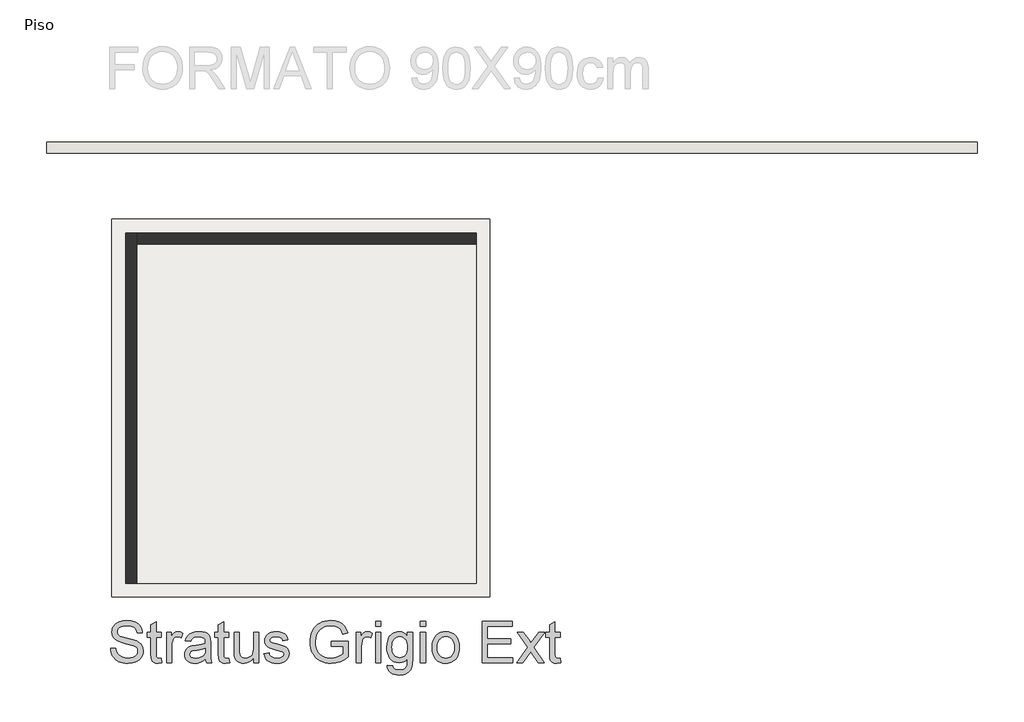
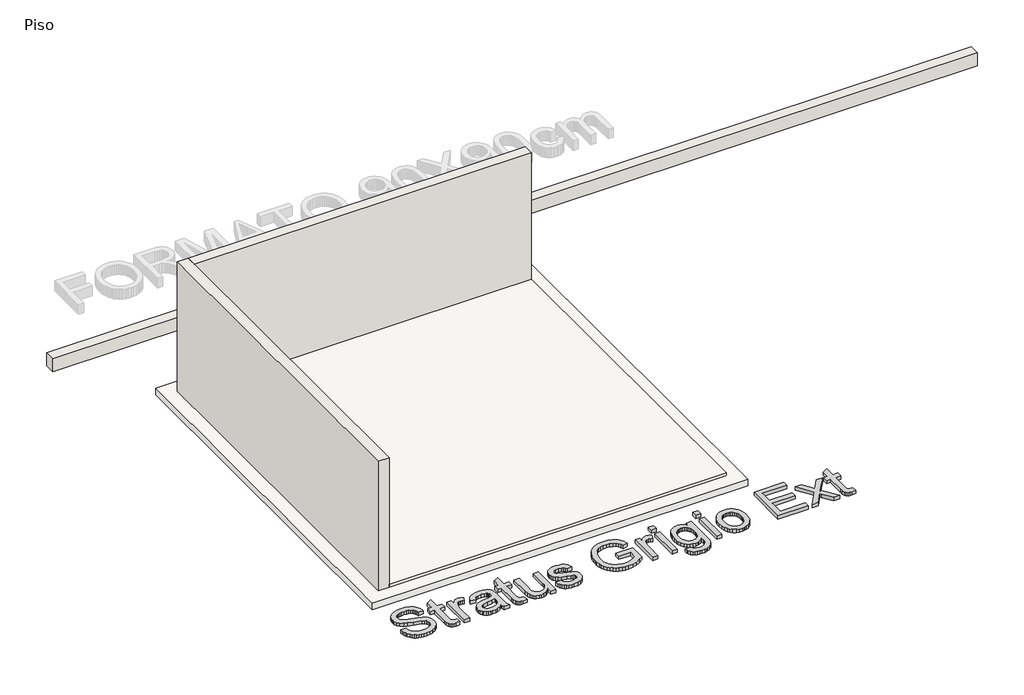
# One storey, part 1 of 2: 3 walls, 2 slabs, 1 proxy.
"""IFC4 building model written with IfcOpenShell, lengths in millimetres."""

import ifcopenshell
import ifcopenshell.guid

model = None  # the IFC model being written
_history = None  # IfcOwnerHistory: only IFC2X3 demands one
_inside = {}  # id of a spatial element -> (the spatial element, [elements in it])
_under = {}  # id of a project, library or spatial element -> (it, [spatial elements below it])
_declared = {}  # id of a project -> (the project, [libraries it declares])
_typed = {}  # id of a type object -> (the type object, [elements of that type])
_made_of = {}  # id of a material, layer set ... -> (it, [elements and type objects made of it])


def new_model(schema):
    """Start an empty IFC model of exactly this schema.

    Asked for "IFC4X3", IfcOpenShell would pick the latest addendum, in which some entities
    have other attributes; the version numbers below select the first issue.
    IFC2X3 requires an IfcOwnerHistory on every rooted entity: one is made here for all.
    """
    global model, _history
    if schema == "IFC4X3":
        model = ifcopenshell.file(schema_version=(4, 3, 0, 0))
    else:
        model = ifcopenshell.file(schema=schema)
    _inside.clear()
    _under.clear()
    _declared.clear()
    _typed.clear()
    _made_of.clear()
    _history = None
    if model.schema == "IFC2X3":
        org = make("IfcOrganization", Name="unknown")
        user = make(
            "IfcPersonAndOrganization",
            ThePerson=make("IfcPerson", FamilyName="unknown"),
            TheOrganization=org,
        )
        app = make(
            "IfcApplication",
            ApplicationDeveloper=org,
            Version="unknown",
            ApplicationFullName="unknown",
            ApplicationIdentifier="unknown",
        )
        _history = make(
            "IfcOwnerHistory",
            OwningUser=user,
            OwningApplication=app,
            ChangeAction="ADDED",
            CreationDate=0,
        )
    return model


def make(cls, **values):
    """One entity of the class cls with the attributes given. An attribute that is None is left unset."""
    return model.create_entity(
        cls, **{name: value for name, value in values.items() if value is not None}
    )


def rooted(cls, **values):
    """An entity with a GlobalId (a new one), such as an element, a storey or a relation."""
    return make(cls, GlobalId=ifcopenshell.guid.new(), OwnerHistory=_history, **values)


def si_unit(unit_type, name, prefix=None):
    """IfcSIUnit, for example si_unit("LENGTHUNIT", "METRE", prefix="MILLI")."""
    return make("IfcSIUnit", UnitType=unit_type, Prefix=prefix, Name=name)


def assignment(units):
    """IfcUnitAssignment: the units of a project."""
    return None if units is None else make("IfcUnitAssignment", Units=units)


def point(xyz):
    """IfcCartesianPoint."""
    return None if xyz is None else make("IfcCartesianPoint", Coordinates=xyz)


def direction(xyz):
    """IfcDirection."""
    return None if xyz is None else make("IfcDirection", DirectionRatios=xyz)


def frame(location, z_axis=None, x_axis=None):
    """IfcAxis2Placement3D, a coordinate frame: its origin and axes. An axis left out is left unset."""
    return make(
        "IfcAxis2Placement3D",
        Location=point(location),
        Axis=direction(z_axis),
        RefDirection=direction(x_axis),
    )


def origin():
    """The frame at (0, 0, 0) with its axes left unset."""
    return frame((0.0, 0.0, 0.0))


def origin_with_axes():
    """The frame at (0, 0, 0) with the z axis (0, 0, 1) and the x axis (1, 0, 0) written out."""
    return frame((0.0, 0.0, 0.0), z_axis=(0.0, 0.0, 1.0), x_axis=(1.0, 0.0, 0.0))


def place(relative_to, where):
    """IfcLocalPlacement: puts the frame where relative to a parent placement (None: the world)."""
    return make(
        "IfcLocalPlacement", PlacementRelTo=relative_to, RelativePlacement=where
    )


def context(
    kind, dimensions, precision=None, world=None, true_north=None, identifier=None
):
    """IfcGeometricRepresentationContext, for example the 3D "Model" context."""
    return make(
        "IfcGeometricRepresentationContext",
        ContextIdentifier=identifier,
        ContextType=kind,
        CoordinateSpaceDimension=dimensions,
        Precision=precision,
        WorldCoordinateSystem=world,
        TrueNorth=true_north,
    )


def project(units=None, contexts=None):
    """IfcProject with its units and contexts."""
    return rooted(
        "IfcProject",
        Name="project",
        RepresentationContexts=contexts,
        UnitsInContext=assignment(units),
    )


def spatial(cls, under=None, at=None, **own):
    """A site, building, storey or space (cls), placed at a placement, below another one or the project."""
    s = rooted(cls, ObjectPlacement=at, **own)
    if under is not None:
        _under.setdefault(under.id(), (under, []))[1].append(s)
    return s


def polyline(points):
    """IfcPolyline through the points."""
    return make("IfcPolyline", Points=[point(p) for p in points])


def outline(outer, holes=None, kind="AREA"):
    """IfcArbitraryClosedProfileDef: a profile drawn as a closed curve; with holes, ...WithVoids."""
    if holes is None:
        return make("IfcArbitraryClosedProfileDef", ProfileType=kind, OuterCurve=outer)
    return make(
        "IfcArbitraryProfileDefWithVoids",
        ProfileType=kind,
        OuterCurve=outer,
        InnerCurves=holes,
    )


def extrude(swept, where, along, depth):
    """IfcExtrudedAreaSolid: the profile swept, set in the frame where, extruded along a direction by depth."""
    return make(
        "IfcExtrudedAreaSolid",
        SweptArea=swept,
        Position=where,
        ExtrudedDirection=direction(along),
        Depth=depth,
    )


def faces_of(points, faces, orient=None, outer=None):
    """IfcFace entities. A face is a list of loops; a loop is a list of indices into points, from 0.

    orient and outer hold one flag for each loop. By default every Orientation is true, the
    first loop of a face is its IfcFaceOuterBound and the others are IfcFaceBound.
    """
    made = []
    for i, loops in enumerate(faces):
        bounds = []
        for j, loop in enumerate(loops):
            is_outer = j == 0 if outer is None else outer[i][j]
            bounds.append(
                make(
                    "IfcFaceOuterBound" if is_outer else "IfcFaceBound",
                    Bound=make("IfcPolyLoop", Polygon=[points[k] for k in loop]),
                    Orientation=True if orient is None else orient[i][j],
                )
            )
        made.append(make("IfcFace", Bounds=bounds))
    return made


def faceted_brep(points, faces, orient=None, outer=None, voids=None):
    """IfcFacetedBrep: a solid bounded by flat faces; with voids (closed shells), ...WithVoids."""
    shared = [point(p) for p in points]
    hull = make("IfcClosedShell", CfsFaces=faces_of(shared, faces, orient, outer))
    if voids is None:
        return make("IfcFacetedBrep", Outer=hull)
    return make(
        "IfcFacetedBrepWithVoids",
        Outer=hull,
        Voids=[
            make(cls, CfsFaces=faces_of(shared, fs, o, b)) for cls, fs, o, b in voids
        ],
    )


def shape(context_of_items, identifier, shape_type, items):
    """IfcShapeRepresentation: the items that make up one representation, for example the "Body"."""
    return make(
        "IfcShapeRepresentation",
        ContextOfItems=context_of_items,
        RepresentationIdentifier=identifier,
        RepresentationType=shape_type,
        Items=items,
    )


def made_of(thing, what):
    """Note that an element or type object is made of a material, layer set ...; save() writes the relation."""
    if what is not None:
        _made_of.setdefault(what.id(), (what, []))[1].append(thing)
    return thing


def element(
    cls,
    number,
    at=None,
    inside=None,
    cuts=None,
    type_object=None,
    material=None,
    context=None,
    identifier="Body",
    shape_type=None,
    held_by="IfcProductDefinitionShape",
    body=None,
    shapes=None,
    **own,
):
    """One element of the class cls, such as IfcWall. Its Tag is "e" and its number.

    at: its placement. inside: the storey or other place that contains it. cuts: it is an
    opening in that element (IfcRelVoidsElement). A single representation is given by context,
    identifier, shape_type and body (its items); several are given by shapes. held_by: the class
    of the entity that holds the representations. save() writes the other relations.
    """
    e = rooted(cls, Tag="e%d" % number, ObjectPlacement=at, **own)
    if body is not None:
        shapes = [shape(context, identifier, shape_type, body)]
    if shapes is not None:
        e.Representation = make(held_by, Representations=shapes)
    if inside is not None:
        _inside.setdefault(inside.id(), (inside, []))[1].append(e)
    if cuts is not None:
        rooted(
            "IfcRelVoidsElement", RelatingBuildingElement=cuts, RelatedOpeningElement=e
        )
    if type_object is not None:
        _typed.setdefault(type_object.id(), (type_object, []))[1].append(e)
    return made_of(e, material)


def aggregate(whole, parts):
    """IfcRelAggregates: a whole, such as a stair, and the parts it consists of."""
    return rooted("IfcRelAggregates", RelatingObject=whole, RelatedObjects=parts)


def save(model, path):
    """Write the relations noted so far, then the file.

    IfcRelAggregates (storeys below a building ...), IfcRelContainedInSpatialStructure (elements
    in a storey), IfcRelDefinesByType, IfcRelAssociatesMaterial and IfcRelDeclares: one each for
    every whole, place, type object, material and project.
    """
    for whole, parts in _under.values():
        aggregate(whole, parts)
    for where, things in _inside.values():
        rooted(
            "IfcRelContainedInSpatialStructure",
            RelatedElements=things,
            RelatingStructure=where,
        )
    for kind, things in _typed.values():
        rooted("IfcRelDefinesByType", RelatedObjects=things, RelatingType=kind)
    for what, things in _made_of.values():
        rooted("IfcRelAssociatesMaterial", RelatedObjects=things, RelatingMaterial=what)
    for by, libraries in _declared.values():
        rooted("IfcRelDeclares", RelatingContext=by, RelatedDefinitions=libraries)
    model.write(path)


model = new_model("IFC4")

# Units and contexts
model_context = context("Model", 3, world=origin())
ifc_project = project(units=[si_unit("LENGTHUNIT", "METRE", prefix="MILLI")], contexts=[model_context])

# Site, building, storey
site = spatial("IfcSite", under=ifc_project)
building = spatial("IfcBuilding", under=site)
storey = spatial("IfcBuildingStorey", under=building, Name="Piso", Elevation=0.0)

# Proxy
placement = place(None, origin())
element("IfcBuildingElementProxy", 1, Name="600mm Arial", ObjectType="600mm Arial", at=placement, inside=storey, context=model_context, shape_type="SweptSolid", body=[
    extrude(outline(polyline([(92616.7349358, -5420.6662735), (92692.0771684, -5420.6662735), (92700.7223953, -5462.4760622), (92716.35738, -5496.0820825), (92740.7479563, -5522.7535271), (92775.6599577, -5543.7595891), (92818.3342691, -5557.389617), (92866.0117757, -5561.9329596), (92907.9871113, -5558.493263), (92944.7385227, -5548.174173), (92974.5185702, -5531.8402124), (92995.5798144, -5510.3559039), (93008.1061963, -5485.6894161), (93012.281657, -5459.8089178), (93009.15466, -5434.590607), (92999.7736691, -5412.7935988), (92980.7173818, -5394.1971639), (92948.5644954, -5378.5805732), (92838.8620844, -5349.8122012), (92766.8491839, -5330.7743079), (92720.771964, -5312.6561197), (92683.2663946, -5287.3090502), (92656.6869204, -5256.5909036), (92640.8496005, -5221.1638675), (92635.5704939, -5181.6901294), (92637.2029703, -5159.2539262), (92642.1003993, -5137.5626841), (92650.2627811, -5116.616403), (92661.6901156, -5096.4150829), (92676.253644, -5077.7818599), (92693.8246078, -5061.5398698), (92714.4030069, -5047.6891127), (92737.9888414, -5036.2295885), (92791.0006369, -5020.833727), (92849.6778151, -5015.7017732), (92913.2478239, -5021.0728503), (92968.8715815, -5037.1860817), (92993.2069755, -5049.1882318), (93014.5625253, -5063.7103735), (93032.938231, -5080.752507), (93048.3340925, -5100.3146321), (93060.6305482, -5121.8265317), (93069.7080364, -5144.7179889), (93075.5665572, -5168.9890035), (93078.2061105, -5194.6395756), (93002.8638779, -5194.6395756), (92997.8238946, -5170.5984872), (92989.0315149, -5149.6843958), (92976.4867388, -5131.8973014), (92960.1895665, -5117.2372038), (92939.8364951, -5105.7776797), (92915.124022, -5097.5923053), (92886.0521474, -5092.6810807), (92852.6208711, -5091.0440058), (92818.122737, -5092.6626866), (92788.6461921, -5097.5187289), (92764.1912365, -5105.6121328), (92744.7578701, -5116.9428982), (92729.9506198, -5130.5637291), (92719.3740124, -5145.5273293), (92713.028048, -5161.8336987), (92710.9127265, -5179.4828374), (92712.4118456, -5194.6671668), (92716.909203, -5208.4351504), (92724.4047987, -5220.7867884), (92734.8986326, -5231.7220807), (92751.4165342, -5242.0779589), (92777.4257912, -5252.5442017), (92857.9183718, -5273.807781), (92940.9861263, -5294.0045025), (92991.2388068, -5311.6260501), (93034.1890298, -5338.9596823), (93050.7943033, -5355.0269285), (93064.1530183, -5372.6944613), (93074.4215245, -5391.8703103), (93081.7561718, -5412.462505), (93087.6238896, -5457.8959314), (93085.9362309, -5481.4633717), (93080.873255, -5504.3410333), (93072.4349617, -5526.5289161), (93060.6213511, -5548.0270202), (93045.6393569, -5568.0030125), (93027.6959126, -5585.6245601), (93006.7910182, -5600.8916629), (92982.9246738, -5613.8043209), (92956.7912565, -5624.0728271), (92929.0851438, -5631.4074744), (92868.9548316, -5637.2751922), (92830.4145941, -5635.6932996), (92795.1393093, -5630.9476219), (92763.1289772, -5623.038159), (92734.3835978, -5611.964911), (92708.7284272, -5597.7094836), (92685.9887213, -5580.253483), (92666.1644803, -5559.5969089), (92649.2557041, -5535.7397616), (92635.6348733, -5509.454593), (92625.6744682, -5481.5139555), (92619.3744891, -5451.917849), (92616.7349358, -5420.6662735)])), origin_with_axes(), (0.0, 0.0, 1.0), 50.0),
    extrude(outline(polyline([(93351.3217037, -5565.0231684), (93360.7394828, -5630.0647051), (93304.3799611, -5637.2751922), (93268.217161, -5634.1481953), (93241.2514108, -5624.7672044), (93222.1951234, -5610.309442), (93209.760712, -5591.9521304), (93202.9181069, -5560.4246434), (93200.6372385, -5506.4563547), (93200.6372385, -5260.5640292), (93144.130564, -5260.5640292), (93144.130564, -5185.2217966), (93200.6372385, -5185.2217966), (93200.6372385, -5077.6531012), (93275.9794711, -5033.3601089), (93275.9794711, -5185.2217966), (93351.3217037, -5185.2217966), (93351.3217037, -5260.5640292), (93275.9794711, -5260.5640292), (93275.9794711, -5504.2490628), (93279.9525967, -5543.0974015), (93292.8284665, -5556.8561881), (93303.6993794, -5560.6637667), (93318.5066298, -5561.9329596), (93351.3217037, -5565.0231684)])), origin_with_axes(), (0.0, 0.0, 1.0), 50.0),
    extrude(outline(polyline([(93426.6639363, -5627.8574132), (93426.6639363, -5185.2217966), (93492.5883899, -5185.2217966), (93492.5883899, -5250.7047917), (93516.942178, -5212.7393698), (93539.3829797, -5190.3721445), (93561.8973578, -5179.4460492), (93586.471875, -5175.8040175), (93623.9958385, -5181.616553), (93662.1084132, -5199.0541596), (93636.9452848, -5266.5972939), (93610.4577811, -5255.009011), (93583.9702775, -5251.1462501), (93561.4742935, -5254.8618582), (93541.3695424, -5266.0086827), (93525.1275523, -5283.7405949), (93514.2198512, -5307.2114662), (93505.0595895, -5349.2971664), (93502.0061689, -5395.2088394), (93502.0061689, -5627.8574132), (93426.6639363, -5627.8574132)])), origin_with_axes(), (0.0, 0.0, 1.0), 50.0),
    extrude(outline(polyline([(93991.7306809, -5571.3507387), (93955.7334277, -5602.2160381), (93918.6693167, -5622.4127596), (93879.6922193, -5633.5595841), (93837.9560069, -5637.2751922), (93804.4097675, -5635.0403091), (93774.9930035, -5628.3356597), (93749.7057148, -5617.1612441), (93728.5479016, -5601.5170623), (93711.8414605, -5582.3963956), (93699.9082883, -5560.7925254), (93692.7483849, -5536.7054518), (93690.3617505, -5510.1351747), (93693.966994, -5478.9019933), (93704.7827247, -5450.5382915), (93721.4661732, -5426.2580798), (93742.6745702, -5407.2753688), (93767.5985754, -5392.927971), (93795.4288483, -5382.5536988), (93860.6175378, -5371.2229333), (93937.6520276, -5359.3035567), (93991.2892225, -5345.3240409), (93991.7306809, -5328.5486219), (93986.5435448, -5294.9242075), (93980.0596246, -5282.471402), (93970.9821364, -5272.9248642), (93955.2919693, -5263.3967205), (93936.1804997, -5256.5909036), (93887.6936527, -5251.1462501), (93842.8120493, -5254.7698877), (93811.4685033, -5265.6408007), (93790.0945594, -5285.7455517), (93775.1217622, -5317.0707036), (93699.7795296, -5307.6529245), (93712.8577345, -5266.4501411), (93732.3738743, -5234.0765255), (93760.148965, -5209.3180672), (93798.0040223, -5190.9607557), (93844.3019714, -5179.593202), (93897.4057374, -5175.8040175), (93948.3389996, -5179.1517436), (93988.7140486, -5189.1949221), (94019.1562837, -5204.296478), (94040.2911043, -5222.8193365), (94054.3074083, -5245.7199907), (94063.3940936, -5273.9549338), (94067.0729135, -5339.8793873), (94067.0729135, -5433.6157197), (94070.8988863, -5564.5081336), (94076.564269, -5596.8633551), (94085.9084717, -5627.8574132), (94010.5662391, -5627.8574132), (93998.4997096, -5601.6642151), (93991.7306809, -5571.3507387)]), holes=[polyline([(93991.7306809, -5420.6662735), (93941.1101184, -5433.2110495), (93870.1824697, -5443.7692628), (93805.3616622, -5455.982945), (93788.4942727, -5464.3338663), (93776.004679, -5475.8485727), (93768.2791571, -5489.6441476), (93765.7039831, -5504.837674), (93771.3141835, -5527.2416875), (93788.1447848, -5545.598999), (93815.8279049, -5557.8494695), (93853.9956619, -5561.9329596), (93894.4626814, -5557.4264052), (93930.2208113, -5543.9067419), (93959.2099126, -5523.9859318), (93979.3698459, -5500.2759372), (93988.3093784, -5475.8485727), (93991.2892225, -5442.0034292), (93991.7306809, -5420.6662735)])]), origin_with_axes(), (0.0, 0.0, 1.0), 50.0),
    extrude(outline(polyline([(94330.7707277, -5565.0231684), (94340.1885068, -5630.0647051), (94283.8289851, -5637.2751922), (94247.666185, -5634.1481953), (94220.7004347, -5624.7672044), (94201.6441474, -5610.309442), (94189.2097359, -5591.9521304), (94182.3671308, -5560.4246434), (94180.0862625, -5506.4563547), (94180.0862625, -5260.5640292), (94123.579588, -5260.5640292), (94123.579588, -5185.2217966), (94180.0862625, -5185.2217966), (94180.0862625, -5077.6531012), (94255.4284951, -5033.3601089), (94255.4284951, -5185.2217966), (94330.7707277, -5185.2217966), (94330.7707277, -5260.5640292), (94255.4284951, -5260.5640292), (94255.4284951, -5504.2490628), (94259.4016206, -5543.0974015), (94272.2774904, -5556.8561881), (94283.1484034, -5560.6637667), (94297.9556537, -5561.9329596), (94330.7707277, -5565.0231684)])), origin_with_axes(), (0.0, 0.0, 1.0), 50.0),
    extrude(outline(polyline([(94688.6463326, -5627.8574132), (94688.6463326, -5551.7794165), (94661.3862767, -5589.1838184), (94629.6380606, -5615.9012483), (94593.401684, -5631.9317062), (94552.6771472, -5637.2751922), (94515.9809182, -5633.5227959), (94481.8230749, -5622.2656068), (94453.1650675, -5605.343035), (94432.9683459, -5584.5944905), (94419.3751062, -5559.3945738), (94410.5275442, -5529.1178856), (94406.1129603, -5459.0731538), (94406.1129603, -5185.2217966), (94481.4551929, -5185.2217966), (94481.4551929, -5423.6093294), (94482.5956271, -5471.286836), (94486.0169296, -5500.42309), (94496.9982072, -5526.046071), (94515.8153713, -5545.5254226), (94541.217623, -5557.8310754), (94571.9541637, -5561.9329596), (94604.456538, -5557.7391049), (94634.8619849, -5545.1575406), (94659.9331429, -5525.3470952), (94676.4326503, -5499.4665968), (94685.592912, -5464.0211666), (94688.6463326, -5415.5159255), (94688.6463326, -5185.2217966), (94763.9885652, -5185.2217966), (94763.9885652, -5627.8574132), (94688.6463326, -5627.8574132)])), origin_with_axes(), (0.0, 0.0, 1.0), 50.0),
    extrude(outline(polyline([(94839.3307978, -5496.0085061), (94914.6730304, -5486.590727), (94919.2255701, -5503.7708162), (94926.5556189, -5518.8171898), (94936.6631767, -5531.7298478), (94949.5482436, -5542.5087903), (94965.2476077, -5551.0068644), (94983.7980573, -5557.0769173), (95029.4522129, -5561.9329596), (95074.5545455, -5557.4815875), (95092.0841226, -5551.9173723), (95106.2659735, -5544.127471), (95125.0279553, -5524.7768781), (95129.7184507, -5513.9427533), (95131.2819492, -5502.3360764), (95129.7092537, -5492.1641392), (95124.9911671, -5483.1326362), (95106.1188207, -5468.4909328), (95077.9022717, -5458.926001), (95028.5692961, -5447.0066243), (94959.8121512, -5427.1226025), (94915.1144888, -5410.1448484), (94886.4012991, -5391.6219899), (94865.5975723, -5367.102655), (94852.9608257, -5338.1503419), (94848.7485769, -5306.3285494), (94852.1330912, -5277.137113), (94862.2866343, -5250.1897569), (94878.2895011, -5226.5533387), (94899.2219866, -5207.2947163), (94920.0257135, -5195.1730045), (94947.1202224, -5185.0010674), (94978.4453743, -5178.1032799), (95011.94103, -5175.8040175), (95060.9796999, -5179.5012315), (95103.6172231, -5190.5928737), (95137.9038251, -5207.9936921), (95161.8897312, -5230.6184348), (95177.7822334, -5260.1409649), (95187.7886236, -5298.2351455), (95112.446391, -5307.6529245), (95102.9366415, -5283.94293), (95084.1194774, -5266.0822591), (95055.8109579, -5254.8802523), (95017.8271419, -5251.1462501), (94974.5642192, -5254.7147054), (94945.7222708, -5265.4200715), (94929.4986748, -5280.8711153), (94924.0908095, -5298.6766039), (94926.3348897, -5310.2648867), (94933.0671302, -5320.6023708), (94944.5818366, -5329.8362089), (94961.1733146, -5337.230637), (95026.0676986, -5353.270292), (95136.6530263, -5388.7341163), (95165.8628567, -5405.6934763), (95188.0093528, -5428.9068302), (95201.9704746, -5458.4477544), (95206.6241818, -5494.3898253), (95201.1611342, -5531.5459068), (95184.7719913, -5566.4946964), (95158.0821525, -5596.4954731), (95121.7170173, -5618.8075161), (95077.7919071, -5632.6582732), (95028.4221433, -5637.2751922), (94987.8723504, -5635.0495062), (94952.4545113, -5628.3724479), (94922.1686261, -5617.2440176), (94897.0146947, -5601.6642151), (94876.4684852, -5581.7066169), (94860.0057659, -5557.4447993), (94847.6265368, -5528.8787623), (94839.3307978, -5496.0085061)])), origin_with_axes(), (0.0, 0.0, 1.0), 50.0),
    extrude(outline(polyline([(95818.7798218, -5392.4129362), (95818.7798218, -5317.0707036), (96063.6420778, -5317.0707036), (96063.6420778, -5542.3616375), (96004.137165, -5583.7483619), (95942.7560541, -5613.4364389), (95879.6458979, -5631.3155039), (95814.953849, -5637.2751922), (95771.6771308, -5634.9069519), (95730.4329606, -5627.8022309), (95691.2213385, -5615.9610291), (95654.0422643, -5599.3833467), (95620.0959532, -5578.317504), (95590.5826202, -5553.0118212), (95565.5022651, -5523.4662985), (95544.8548882, -5489.6809358), (95528.7278612, -5452.7363864), (95517.2085562, -5413.7133038), (95510.2969732, -5372.6116878), (95507.9931122, -5329.4315387), (95510.2877762, -5286.246791), (95517.171768, -5244.5427683), (95528.6450878, -5204.3194706), (95544.7077354, -5165.576898), (95565.0746023, -5130.0165047), (95589.4605801, -5099.3397448), (95617.8656686, -5073.5466184), (95650.289868, -5052.6371255), (95686.0296038, -5036.4779089), (95724.3813018, -5024.9356113), (95765.344962, -5018.0102327), (95808.9205843, -5015.7017732), (95870.9822769, -5021.0544562), (95926.7899756, -5037.1125053), (95951.7093822, -5048.866335), (95973.7869004, -5062.7170922), (95993.0225303, -5078.6647767), (96009.4162717, -5096.7093885), (96035.7750166, -5140.7264692), (96054.9600627, -5196.4054092), (95985.503942, -5215.9767314), (95969.9977159, -5176.26387), (95951.1437636, -5146.2998815), (95926.2013644, -5123.711927), (95892.4297972, -5106.1271676), (95852.1651128, -5094.8147962), (95807.7433619, -5091.0440058), (95755.7432419, -5095.1091018), (95711.2847028, -5107.30439), (95674.5332915, -5126.1031599), (95645.6545548, -5149.9787014), (95623.4896646, -5177.6986098), (95606.8797926, -5208.0304803), (95589.2214568, -5264.9050367), (95583.3353449, -5326.3413299), (95585.105777, -5363.9618624), (95590.4170733, -5398.3910187), (95599.2692338, -5429.6287986), (95611.6622585, -5457.6752022), (95627.435199, -5482.4244634), (95646.427107, -5503.7708162), (95668.6379825, -5521.7142605), (95694.0678254, -5536.2547964), (95721.5256178, -5547.4889928), (95749.8203418, -5555.5134188), (95778.9519973, -5560.3280744), (95808.9205843, -5561.9329596), (95861.1046453, -5557.0953114), (95912.0011194, -5542.5823667), (95956.2021411, -5522.5879802), (95988.2998452, -5501.3060068), (95988.2998452, -5392.4129362), (95818.7798218, -5392.4129362)])), origin_with_axes(), (0.0, 0.0, 1.0), 50.0),
    extrude(outline(polyline([(96176.6554267, -5627.8574132), (96176.6554267, -5185.2217966), (96242.5798802, -5185.2217966), (96242.5798802, -5250.7047917), (96266.9336683, -5212.7393698), (96289.37447, -5190.3721445), (96311.8888481, -5179.4460492), (96336.4633654, -5175.8040175), (96373.9873289, -5181.616553), (96412.0999036, -5199.0541596), (96386.9367751, -5266.5972939), (96360.4492715, -5255.009011), (96333.9617678, -5251.1462501), (96311.4657838, -5254.8618582), (96291.3610328, -5266.0086827), (96275.1190427, -5283.7405949), (96264.2113415, -5307.2114662), (96255.0510799, -5349.2971664), (96251.9976593, -5395.2088394), (96251.9976593, -5627.8574132), (96176.6554267, -5627.8574132)])), origin_with_axes(), (0.0, 0.0, 1.0), 50.0),
    extrude(outline(polyline([(96459.188799, -5100.4617849), (96459.188799, -5025.1195523), (96534.5310316, -5025.1195523), (96534.5310316, -5100.4617849), (96459.188799, -5100.4617849)])), origin_with_axes(), (0.0, 0.0, 1.0), 50.0),
    extrude(outline(polyline([(96459.188799, -5627.8574132), (96459.188799, -5185.2217966), (96534.5310316, -5185.2217966), (96534.5310316, -5627.8574132), (96459.188799, -5627.8574132)])), origin_with_axes(), (0.0, 0.0, 1.0), 50.0),
    extrude(outline(polyline([(96628.7088224, -5665.5285295), (96704.051055, -5674.9463085), (96712.3651881, -5698.4907562), (96728.4784194, -5714.677564), (96760.1530592, -5727.2591282), (96801.6133601, -5731.452983), (96845.8327759, -5726.7073053), (96863.6934468, -5720.7752081), (96878.7214263, -5712.470272), (96901.53011, -5689.6615883), (96915.5096258, -5659.2009591), (96919.5931159, -5626.7905554), (96920.6599737, -5571.3507387), (96895.5888158, -5596.0724088), (96867.61139, -5613.7307445), (96836.7276965, -5624.325746), (96802.9377353, -5627.8574132), (96761.6291857, -5623.7463319), (96725.259452, -5611.413088), (96693.828534, -5590.8576815), (96667.3364318, -5562.0801124), (96646.3165743, -5527.5543872), (96631.3023904, -5489.7545122), (96622.2938801, -5448.6804874), (96619.2910433, -5404.3323129), (96624.6805145, -5343.503025), (96640.8489282, -5287.5665676), (96652.8326842, -5262.3436583), (96667.2260672, -5240.1649725), (96684.0290774, -5221.0305103), (96703.2417146, -5204.9402715), (96724.5558777, -5192.1931604), (96747.6634655, -5183.088081), (96772.564478, -5177.6250334), (96799.2589153, -5175.8040175), (96834.4928134, -5179.9242958), (96866.4709558, -5192.2851309), (96895.1933426, -5212.8865226), (96920.6599737, -5241.728471), (96920.6599737, -5185.2217966), (96996.0022063, -5185.2217966), (96996.0022063, -5567.3776131), (96990.8518584, -5655.6141097), (96984.4139235, -5688.4337822), (96975.4008146, -5713.7210708), (96963.5964011, -5734.1155289), (96948.7845523, -5752.2567098), (96930.9652681, -5768.1446135), (96910.1385487, -5781.7792399), (96886.515926, -5792.7237293), (96860.3089324, -5800.5412217), (96831.5175678, -5805.2317171), (96800.1418321, -5806.7952156), (96763.2294724, -5804.5925222), (96730.0419179, -5797.9844418), (96700.5791686, -5786.9709746), (96674.8412245, -5771.5521205), (96654.0512933, -5751.7094854), (96639.4325825, -5727.4246751), (96630.9850922, -5698.6976898), (96628.7088224, -5665.5285295)]), holes=[polyline([(96694.6332759, -5399.1819649), (96696.6428313, -5436.4346155), (96702.6714975, -5468.2885977), (96712.7192745, -5494.7439117), (96726.7861623, -5515.8005574), (96743.8880765, -5531.863205), (96763.0409329, -5543.3365248), (96784.2447314, -5550.2205166), (96807.499472, -5552.5151805), (96830.5242864, -5550.2343122), (96851.6269173, -5543.3917071), (96870.8073649, -5531.9873652), (96888.065629, -5516.0212866), (96902.3256548, -5495.1715745), (96912.5113875, -5469.1163322), (96918.6228272, -5437.8555597), (96920.6599737, -5401.3892569), (96918.5630464, -5366.4450659), (96912.2722642, -5336.0718087), (96901.7876274, -5310.2694852), (96887.1091358, -5289.0380956), (96869.4783911, -5272.4604132), (96850.1369953, -5260.6192115), (96829.0849481, -5253.5144904), (96806.3222496, -5251.1462501), (96783.9412287, -5253.4777022), (96763.2984503, -5260.4720587), (96744.3939143, -5272.1293194), (96727.2276207, -5288.4494844), (96712.9675948, -5309.3589773), (96702.7818621, -5334.7842217), (96696.6704224, -5364.7252176), (96694.6332759, -5399.1819649)])]), origin_with_axes(), (0.0, 0.0, 1.0), 50.0),
    extrude(outline(polyline([(97109.0155553, -5100.4617849), (97109.0155553, -5025.1195523), (97184.3577879, -5025.1195523), (97184.3577879, -5100.4617849), (97109.0155553, -5100.4617849)])), origin_with_axes(), (0.0, 0.0, 1.0), 50.0),
    extrude(outline(polyline([(97109.0155553, -5627.8574132), (97109.0155553, -5185.2217966), (97184.3577879, -5185.2217966), (97184.3577879, -5627.8574132), (97109.0155553, -5627.8574132)])), origin_with_axes(), (0.0, 0.0, 1.0), 50.0),
    extrude(outline(polyline([(97278.5355786, -5406.5396049), (97282.6098717, -5349.214393), (97294.832751, -5299.8170381), (97315.2042165, -5258.3475401), (97343.7242682, -5224.8058992), (97372.4374579, -5203.367576), (97404.1304918, -5188.0544879), (97438.8033698, -5178.8666351), (97476.456092, -5175.8040175), (97518.022159, -5179.5334212), (97555.6059033, -5190.7216324), (97589.207325, -5209.368651), (97618.8264242, -5235.4744771), (97643.0008698, -5268.1561938), (97660.2683309, -5306.5308845), (97670.6288076, -5350.598549), (97674.0822998, -5400.3591873), (97672.5555896, -5440.6882511), (97667.9754587, -5476.4739721), (97660.3419073, -5507.7163506), (97649.6549354, -5534.4153864), (97636.0479001, -5557.4769889), (97619.6541587, -5577.8070677), (97600.4737111, -5595.4056227), (97578.5065575, -5610.2726538), (97554.6080234, -5622.0862644), (97529.6334344, -5630.5245576), (97503.5827907, -5635.5875336), (97476.456092, -5637.2751922), (97434.2830198, -5633.5595841), (97396.3497876, -5622.4127596), (97362.6563954, -5603.8347189), (97333.2028431, -5577.8254618), (97309.2859149, -5544.8264468), (97292.2023948, -5505.2791324), (97281.9522827, -5459.1835184), (97278.5355786, -5406.5396049)]), holes=[polyline([(97353.8778112, -5406.3924521), (97356.0575121, -5442.9369298), (97362.5966145, -5474.5793799), (97373.4951186, -5501.3198024), (97388.7530244, -5523.1581973), (97407.312671, -5540.1221558), (97428.1163979, -5552.239269), (97451.1642049, -5559.509537), (97476.456092, -5561.9329596), (97501.6192205, -5559.4957414), (97524.575057, -5552.1840867), (97545.3236015, -5539.9979957), (97563.8648541, -5522.9374681), (97579.1227598, -5500.8829425), (97590.021264, -5473.7148572), (97596.5603664, -5441.4332121), (97598.7400672, -5404.0380073), (97596.5465708, -5368.6523579), (97589.9660817, -5337.8376423), (97578.9985997, -5311.5938604), (97563.6441249, -5289.9210124), (97545.0338945, -5272.9570539), (97524.2991455, -5260.8399407), (97501.439878, -5253.5696727), (97476.456092, -5251.1462501), (97451.1642049, -5253.5604757), (97428.1163979, -5260.8031525), (97407.312671, -5272.8742804), (97388.7530244, -5289.7738596), (97373.4951186, -5311.5478752), (97362.5966145, -5338.2423124), (97356.0575121, -5369.8571714), (97353.8778112, -5406.3924521)])]), origin_with_axes(), (0.0, 0.0, 1.0), 50.0),
    extrude(outline(polyline([(98003.7045675, -5627.8574132), (98003.7045675, -5025.1195523), (98436.922405, -5025.1195523), (98436.922405, -5100.4617849), (98079.0468001, -5100.4617849), (98079.0468001, -5279.3995873), (98418.0868469, -5279.3995873), (98418.0868469, -5354.7418199), (98079.0468001, -5354.7418199), (98079.0468001, -5552.5151805), (98446.3401841, -5552.5151805), (98446.3401841, -5627.8574132), (98003.7045675, -5627.8574132)])), origin_with_axes(), (0.0, 0.0, 1.0), 50.0),
    extrude(outline(polyline([(98502.8468586, -5627.8574132), (98663.8320197, -5405.3623825), (98512.2646377, -5185.2217966), (98602.9107613, -5185.2217966), (98676.0457019, -5291.1718112), (98710.1851511, -5341.2037625), (98739.7628635, -5300.2952846), (98823.0513472, -5185.2217966), (98913.6974708, -5185.2217966), (98754.4781433, -5405.3623825), (98907.8113589, -5627.8574132), (98817.1652353, -5627.8574132), (98724.9004309, -5494.0955197), (98707.9778591, -5469.6681552), (98593.4929822, -5627.8574132), (98502.8468586, -5627.8574132)])), origin_with_axes(), (0.0, 0.0, 1.0), 50.0),
    extrude(outline(polyline([(99133.8380567, -5565.0231684), (99143.2558358, -5630.0647051), (99086.8963141, -5637.2751922), (99050.733514, -5634.1481953), (99023.7677638, -5624.7672044), (99004.7114764, -5610.309442), (98992.277065, -5591.9521304), (98985.4344599, -5560.4246434), (98983.1535915, -5506.4563547), (98983.1535915, -5260.5640292), (98926.646917, -5260.5640292), (98926.646917, -5185.2217966), (98983.1535915, -5185.2217966), (98983.1535915, -5077.6531012), (99058.4958241, -5033.3601089), (99058.4958241, -5185.2217966), (99133.8380567, -5185.2217966), (99133.8380567, -5260.5640292), (99058.4958241, -5260.5640292), (99058.4958241, -5504.2490628), (99062.4689496, -5543.0974015), (99075.3448195, -5556.8561881), (99086.2157324, -5560.6637667), (99101.0229827, -5561.9329596), (99133.8380567, -5565.0231684)])), origin_with_axes(), (0.0, 0.0, 1.0), 50.0),
])

# Slabs
element("IfcSlab", 2, ObjectType="5cm - Porcelanato Stratus Grigio Ext  - Externo 90X90", at=placement, inside=storey, context=model_context, shape_type="SweptSolid", body=[
    extrude(outline(polyline([(97914.6784999, 448.2762181), (97914.6784999, -4472.3237819), (92994.0784999, -4472.3237819), (92994.0784999, 448.2762181), (97914.6784999, 448.2762181)])), origin_with_axes(), (0.0, 0.0, 1.0), 50.0),
])
element("IfcSlab", 3, ObjectType="CO02 - Concreto Estrutural Simples", at=placement, inside=storey, context=model_context, shape_type="SweptSolid", body=[
    extrude(outline(polyline([(98114.6784999, 807.0762181), (98114.6784999, -4672.3237819), (92635.2784999, -4672.3237819), (92635.2784999, 807.0762181), (98114.6784999, 807.0762181)])), frame((0.0, 0.0, -100.0), z_axis=(0.0, 0.0, 1.0), x_axis=(1.0, 0.0, 0.0)), (0.0, 0.0, 1.0), 100.0),
])

# Walls
element("IfcWall", 4, ObjectType="CO01 - Bloco de Concreto 14cm / Pintura Branca Simples", at=placement, inside=storey, context=model_context, shape_type="SweptSolid", body=[
    extrude(outline(polyline([(105186.699165, 1765.7486968), (91686.699165, 1765.7486968), (91686.699165, 1924.5486968), (105186.699165, 1924.5486968), (105186.699165, 1765.7486968)])), origin_with_axes(), (0.0, 0.0, 1.0), 200.0),
])
element("IfcWall", 5, ObjectType="CO01 - Bloco de Concreto 14cm / Pintura Branca Simples", at=placement, inside=storey, context=model_context, shape_type="Brep", body=[
    faceted_brep([(92994.0784999, -4472.3237819, 0.0), (92994.0784999, 448.2762181, 0.0), (92994.0784999, 607.0762181, 0.0), (92994.0784999, 607.0762181, 2000.0), (92994.0784999, 448.2762181, 2000.0), (92994.0784999, -4472.3237819, 2000.0), (92835.2784999, -4472.3237819, 0.0), (92835.2784999, -4472.3237819, 2000.0), (92835.2784999, 607.0762181, 2000.0), (92835.2784999, 607.0762181, 0.0)], [[[0, 1, 2, 3, 4, 5]], [[6, 7, 8, 9]], [[2, 1, 0, 6, 9]], [[5, 4, 3, 8, 7]], [[0, 5, 7, 6]], [[3, 2, 9, 8]]]),
])
element("IfcWall", 6, ObjectType="CO01 - Bloco de Concreto 14cm / Pintura Branca Simples", at=placement, inside=storey, context=model_context, shape_type="SweptSolid", body=[
    extrude(outline(polyline([(97914.6784999, 448.2762181), (92994.0784999, 448.2762181), (92994.0784999, 607.0762181), (97914.6784999, 607.0762181), (97914.6784999, 448.2762181)])), origin_with_axes(), (0.0, 0.0, 1.0), 2000.0),
])

save(model, "model.ifc")
